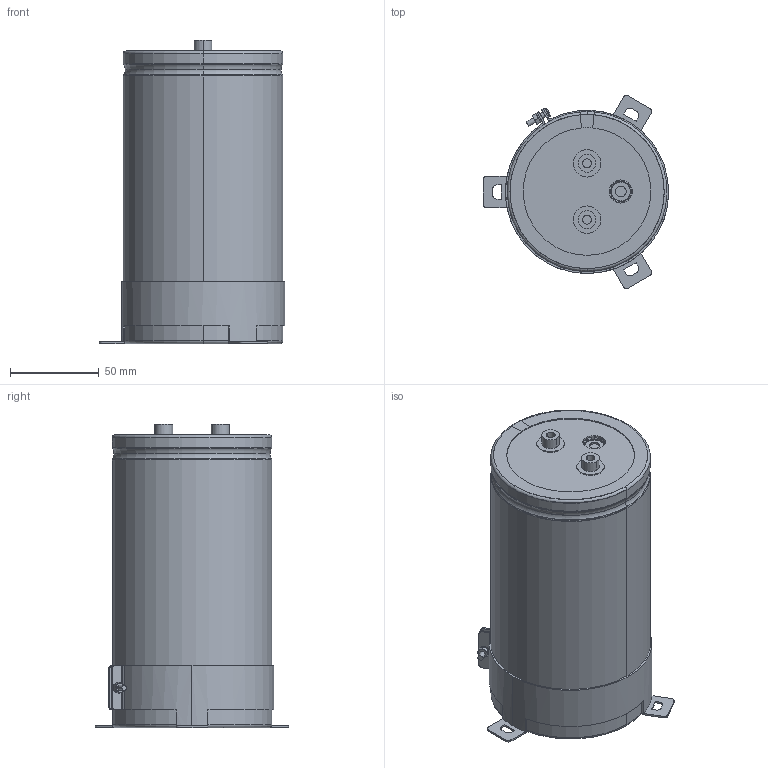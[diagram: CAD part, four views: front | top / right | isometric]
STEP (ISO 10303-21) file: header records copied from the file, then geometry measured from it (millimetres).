
FILE_DESCRIPTION(('STEP AP214'),'1');
FILE_NAME('90x165_Screw.stp','2022-03-14T08:55:02',(' '),(' '),'Spatial InterOp 3D',' ',' ');
FILE_SCHEMA(('AUTOMOTIVE_DESIGN { 1 0 10303 214 1 1 1 1 }'));
Length unit declared in the file: metre
Products named in the file (10): 90x165_Screw; Component1; Component2; Component3; Component4; Component5; Component6; Component7; Component8; Component9
Assembly tree (9 placements, depth 2):
  90x165_Screw
    Component1
    Component2
    Component3
    Component4
    Component5
    Component6
    Component7
    Component8
    Component9
Bounding box: 104.5 x 108.86 x 171 mm (x, y, z)
Volume: 1052245 mm3; surface area: 179353.8 mm2
Topology: 9 solids, 9 shells, 352 faces, 873 edges, 551 vertices
Faces by surface type: plane 112, cylinder 110, torus 90, cone 38, sphere 2
Entity records: 11474 total; most frequent: DIRECTION 2126, CARTESIAN_POINT 1918, ORIENTED_EDGE 1746, AXIS2_PLACEMENT_3D 919, EDGE_CURVE 873, VERTEX_POINT 551, CIRCLE 511, EDGE_LOOP 380
